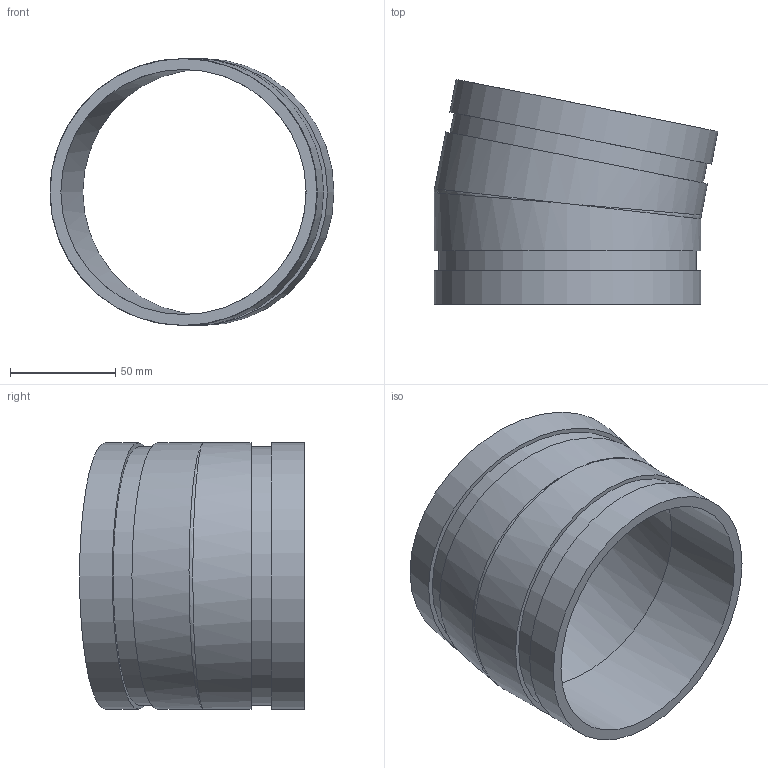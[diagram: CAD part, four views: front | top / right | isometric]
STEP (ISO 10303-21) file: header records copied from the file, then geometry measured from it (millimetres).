
FILE_DESCRIPTION(/* description */ ('VIC 11-1/4 DEG. ELBOW No 13','CAx-IF Rec.Pracs.---Representation and Presentation of Product Manufacturing Information (PMI)---4.0---2014-10-13'),/* implementation_level */ '2;1');
FILE_NAME(/* name */ 'C:\Users\kkamble\AppData\Roaming\Autodesk\ApplicationPlugins\Back Up\Victaulic_IPS_Elbow 11.25 Deg_No 13 (OGS)\Victaulic_IPS_Elbow 11.25 Deg_No 13 (OGS)_4.5 (127).stp',/* time_stamp */ '2020-07-24T08:09:10+06:00',/* author */ ('CONSTRUCTION PIPING SERVICES'),/* organization */ ('Victaulic'),/* preprocessor_version */ 'ST-DEVELOPER v17.2',/* originating_system */ 'Autodesk Inventor 2019',/* authorisation */ '');
FILE_SCHEMA (('AP242_MANAGED_MODEL_BASED_3D_ENGINEERING_MIM_LF { 1 0 10303 442 1 1 4 }'));
Length unit declared in the file: inch
Products named in the file (1): 013-04.5
Bounding box: 135.1 x 106.97 x 127 mm (x, y, z)
Volume: 172738.1 mm3; surface area: 80117.5 mm2
Topology: 1 solids, 1 shells, 16 faces, 37 edges, 23 vertices
Faces by surface type: cylinder 8, plane 6, bspline 2
Full cylindrical faces by diameter (mm): 116.688 x2, 122.784 x2, 127 x4
Entity records: 581 total; most frequent: CARTESIAN_POINT 151, DIRECTION 88, ORIENTED_EDGE 66, AXIS2_PLACEMENT_3D 40, EDGE_CURVE 33, VERTEX_POINT 23, EDGE_LOOP 22, STYLED_ITEM 17
